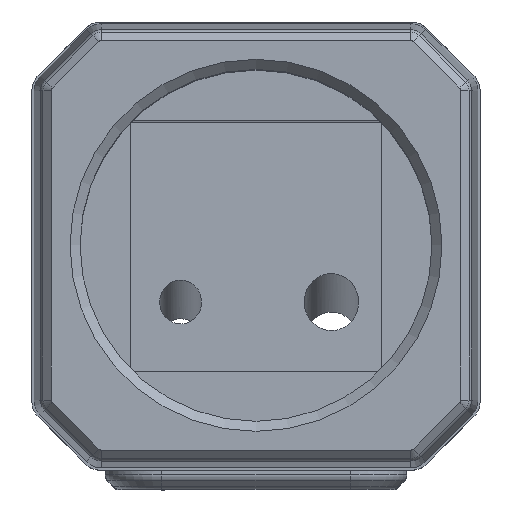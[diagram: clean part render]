
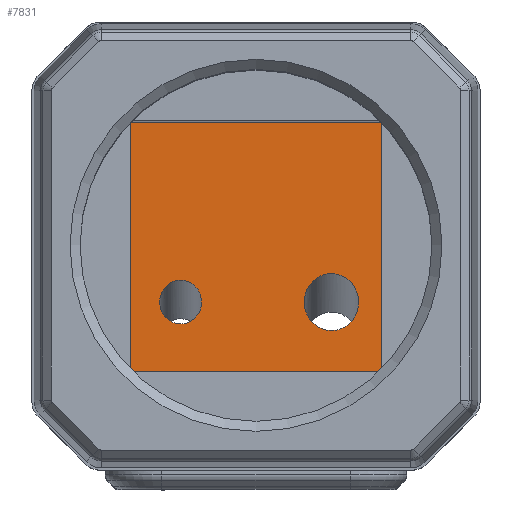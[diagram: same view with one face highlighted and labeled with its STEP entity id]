
A CAD part, top view. The second image highlights one B-rep face of the part: STEP entity #7831.
In plain terms, the highlighted planar face has unit normal (0, 0, 1).
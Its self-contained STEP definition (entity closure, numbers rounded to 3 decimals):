
#82 = EDGE_LOOP ( 'NONE', ( #6406 ) ) ;
#114 = CARTESIAN_POINT ( 'NONE',  ( -4., -3.87, -148.8 ) ) ;
#200 = EDGE_LOOP ( 'NONE', ( #2519, #3484, #8003, #4254 ) ) ;
#242 = CARTESIAN_POINT ( 'NONE',  ( -14., -3.87, -148.8 ) ) ;
#298 = CARTESIAN_POINT ( 'NONE',  ( -9., -9.098, -148.8 ) ) ;
#524 = EDGE_CURVE ( 'NONE', #3907, #3853, #4651, .T. ) ;
#1364 = FACE_BOUND ( 'NONE', #6346, .T. ) ;
#1417 = PLANE ( 'NONE',  #6170 ) ;
#1456 = DIRECTION ( 'NONE',  ( 0., 0., -1. ) ) ;
#1468 = DIRECTION ( 'NONE',  ( 1., 0., 0. ) ) ;
#1593 = CARTESIAN_POINT ( 'NONE',  ( 15., 15., -148.8 ) ) ;
#1664 = CARTESIAN_POINT ( 'NONE',  ( 9., -9.883, -148.8 ) ) ;
#1713 = CARTESIAN_POINT ( 'NONE',  ( 9., -9.883, -148.8 ) ) ;
#2133 = LINE ( 'NONE', #7520, #5343 ) ;
#2223 = VECTOR ( 'NONE', #4687, 1000. ) ;
#2519 = ORIENTED_EDGE ( 'NONE', *, *, #524, .T. ) ;
#2532 = VERTEX_POINT ( 'NONE', #3221 ) ;
#2847 = CARTESIAN_POINT ( 'NONE',  ( -4., -9.098, -148.8 ) ) ;
#3085 = CARTESIAN_POINT ( 'NONE',  ( 15., -15., -148.8 ) ) ;
#3221 = CARTESIAN_POINT ( 'NONE',  ( 9., -9.883, -148.8 ) ) ;
#3231 = LINE ( 'NONE', #7246, #8168 ) ;
#3253 = CARTESIAN_POINT ( 'NONE',  ( -15., -15., -148.8 ) ) ;
#3267 = EDGE_CURVE ( 'NONE', #5377, #5377, #5070, .T. ) ;
#3387 = EDGE_CURVE ( 'NONE', #2532, #2532, #5970, .T. ) ;
#3422 = CARTESIAN_POINT ( 'NONE',  ( 0., 0., -148.8 ) ) ;
#3484 = ORIENTED_EDGE ( 'NONE', *, *, #8612, .T. ) ;
#3853 = VERTEX_POINT ( 'NONE', #3253 ) ;
#3907 = VERTEX_POINT ( 'NONE', #6042 ) ;
#4041 = DIRECTION ( 'NONE',  ( -1., 0., 0. ) ) ;
#4110 = CARTESIAN_POINT ( 'NONE',  ( -9., -3.87, -148.8 ) ) ;
#4254 = ORIENTED_EDGE ( 'NONE', *, *, #6353, .T. ) ;
#4339 = CARTESIAN_POINT ( 'NONE',  ( 2.5, -3.086, -148.8 ) ) ;
#4541 = DIRECTION ( 'NONE',  ( -1., 0., 0. ) ) ;
#4639 = CARTESIAN_POINT ( 'NONE',  ( 15., 15., -148.8 ) ) ;
#4651 = LINE ( 'NONE', #6105, #2223 ) ;
#4687 = DIRECTION ( 'NONE',  ( 0., -1., 0. ) ) ;
#4703 = CARTESIAN_POINT ( 'NONE',  ( -9., -9.098, -148.8 ) ) ;
#5070 =( BOUNDED_CURVE ( )  B_SPLINE_CURVE ( 3, ( #298, #5535, #242, #4110, #114, #2847, #7628 ),
 .UNSPECIFIED., .T., .T. ) 
 B_SPLINE_CURVE_WITH_KNOTS ( ( 4, 3, 4 ),
 ( 0., 3.142, 6.283 ),
 .UNSPECIFIED. ) 
 CURVE ( )  GEOMETRIC_REPRESENTATION_ITEM ( )  RATIONAL_B_SPLINE_CURVE ( ( 1., 0.333, 0.333, 1., 0.333, 0.333, 1. ) ) 
 REPRESENTATION_ITEM ( '' )  );
#5218 = DIRECTION ( 'NONE',  ( 0., 1., 0. ) ) ;
#5343 = VECTOR ( 'NONE', #1468, 1000. ) ;
#5377 = VERTEX_POINT ( 'NONE', #4703 ) ;
#5535 = CARTESIAN_POINT ( 'NONE',  ( -14., -9.098, -148.8 ) ) ;
#5785 = VERTEX_POINT ( 'NONE', #1593 ) ;
#5970 =( BOUNDED_CURVE ( )  B_SPLINE_CURVE ( 3, ( #1664, #8412, #4339, #7754, #7791, #6503, #1713 ),
 .UNSPECIFIED., .T., .T. ) 
 B_SPLINE_CURVE_WITH_KNOTS ( ( 4, 3, 4 ),
 ( 0., 3.142, 6.283 ),
 .UNSPECIFIED. ) 
 CURVE ( )  GEOMETRIC_REPRESENTATION_ITEM ( )  RATIONAL_B_SPLINE_CURVE ( ( 1., 0.333, 0.333, 1., 0.333, 0.333, 1. ) ) 
 REPRESENTATION_ITEM ( '' )  );
#6042 = CARTESIAN_POINT ( 'NONE',  ( -15., 15., -148.8 ) ) ;
#6105 = CARTESIAN_POINT ( 'NONE',  ( -15., 15., -148.8 ) ) ;
#6170 = AXIS2_PLACEMENT_3D ( 'NONE', #3422, #1456, #4041 ) ;
#6173 = FACE_OUTER_BOUND ( 'NONE', #200, .T. ) ;
#6346 = EDGE_LOOP ( 'NONE', ( #7975 ) ) ;
#6353 = EDGE_CURVE ( 'NONE', #5785, #3907, #7922, .T. ) ;
#6406 = ORIENTED_EDGE ( 'NONE', *, *, #3387, .T. ) ;
#6503 = CARTESIAN_POINT ( 'NONE',  ( 15.5, -9.883, -148.8 ) ) ;
#7246 = CARTESIAN_POINT ( 'NONE',  ( 15., 15., -148.8 ) ) ;
#7248 = EDGE_CURVE ( 'NONE', #7953, #5785, #3231, .T. ) ;
#7307 = VECTOR ( 'NONE', #4541, 1000. ) ;
#7465 = FACE_BOUND ( 'NONE', #82, .T. ) ;
#7520 = CARTESIAN_POINT ( 'NONE',  ( 15., -15., -148.8 ) ) ;
#7628 = CARTESIAN_POINT ( 'NONE',  ( -9., -9.098, -148.8 ) ) ;
#7754 = CARTESIAN_POINT ( 'NONE',  ( 9., -3.086, -148.8 ) ) ;
#7791 = CARTESIAN_POINT ( 'NONE',  ( 15.5, -3.086, -148.8 ) ) ;
#7831 = ADVANCED_FACE ( 'NONE', ( #1364, #7465, #6173 ), #1417, .F. ) ;
#7922 = LINE ( 'NONE', #4639, #7307 ) ;
#7953 = VERTEX_POINT ( 'NONE', #3085 ) ;
#7975 = ORIENTED_EDGE ( 'NONE', *, *, #3267, .T. ) ;
#8003 = ORIENTED_EDGE ( 'NONE', *, *, #7248, .T. ) ;
#8168 = VECTOR ( 'NONE', #5218, 1000. ) ;
#8412 = CARTESIAN_POINT ( 'NONE',  ( 2.5, -9.883, -148.8 ) ) ;
#8612 = EDGE_CURVE ( 'NONE', #3853, #7953, #2133, .T. ) ;
